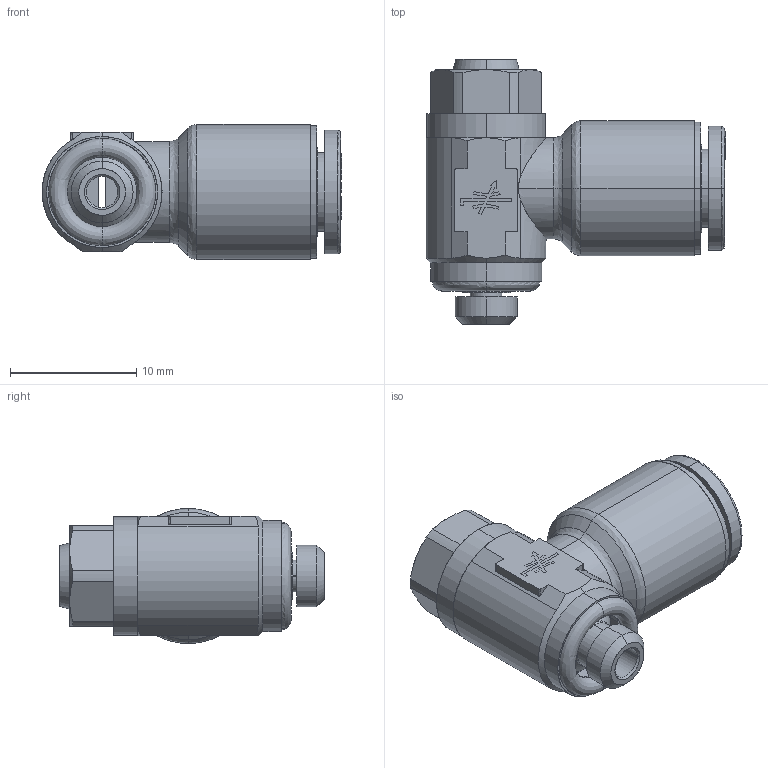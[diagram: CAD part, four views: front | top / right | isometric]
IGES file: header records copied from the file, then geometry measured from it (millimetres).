
Start section: SolidWorks IGES file using analytic representation for surfaces
Global section: file name: C:\Users\cad06\Desktop\Nuova cartella\5692000002.IGS; native system: SolidWorks 2016; preprocessor: SolidWorks 2016; author: cad06; date: 160523.093021; units: millimetre
Bounding box: 23.75 x 21 x 10.7 mm (x, y, z)
Surface area: 1777.4 mm2 (no closed solid volume)
Topology: 0 solids, 0 shells, 258 faces, 2458 edges, 2458 vertices
Faces by surface type: bspline 192, revolution 66
